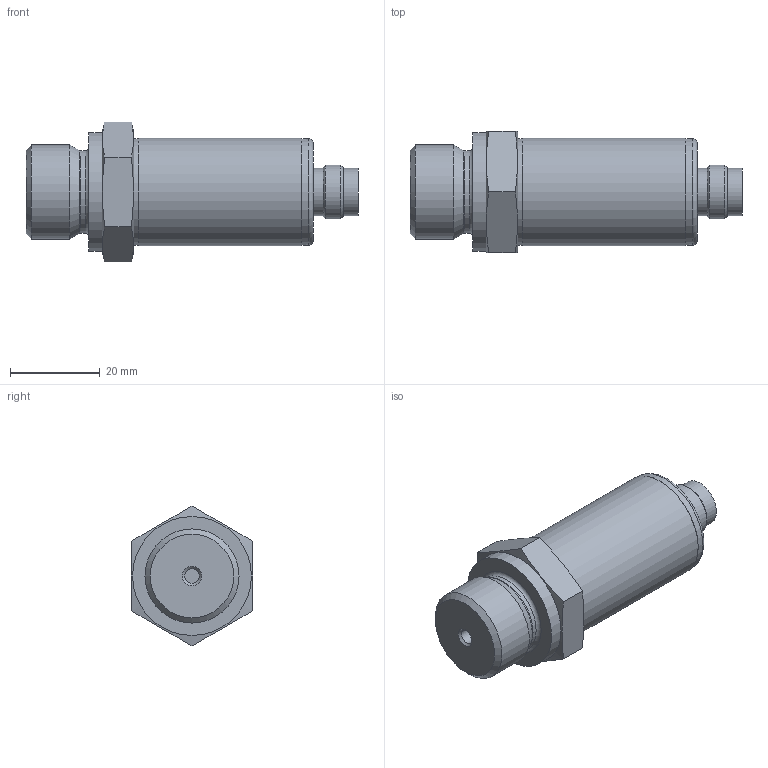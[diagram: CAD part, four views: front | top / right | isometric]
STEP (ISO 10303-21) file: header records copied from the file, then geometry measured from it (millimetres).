
FILE_DESCRIPTION(/* description */ (''),/* implementation_level */ '2;1');
FILE_NAME(/* name */ 'C:\Users\cz1166\Documents\STEP\26.600 G-xxxx-R-x-x-M00-100-x-xxx.stp',/* time_stamp */ '2021-10-06T11:26:54+02:00',/* author */ ('cz1166'),/* organization */ (''),/* preprocessor_version */ 'ST-DEVELOPER v18.1',/* originating_system */ 'Autodesk Inventor 2021',/* authorisation */ '');
FILE_SCHEMA (('AUTOMOTIVE_DESIGN { 1 0 10303 214 3 1 1 }'));
Length unit declared in the file: millimetre
Products named in the file (1): 26.600 G-xxxx-R-x-x-M00-100-x-xxx
Bounding box: 74 x 27 x 31.18 mm (x, y, z)
Volume: 20371.3 mm3; surface area: 12422.2 mm2
Topology: 1 solids, 4 shells, 281 faces, 667 edges, 431 vertices
Faces by surface type: plane 151, cylinder 61, bspline 40, cone 24, torus 5
Full cylindrical faces by diameter (mm): 1 x1, 1.5 x12, 1.7 x8, 3.3 x1, 8 x3, 8.1 x1, 8.5 x1, 9.2 x1, 9.8 x1, 10.5 x2, 12 x1, 18.4 x1, 20.955 x1, 22.3 x8, 22.4 x2, 22.6 x9, 23.8 x1, 24 x1, 26.5 x1
Entity records: 8770 total; most frequent: CARTESIAN_POINT 2019, ORIENTED_EDGE 1334, DIRECTION 1248, EDGE_CURVE 667, AXIS2_PLACEMENT_3D 437, VERTEX_POINT 431, LINE 374, VECTOR 374
